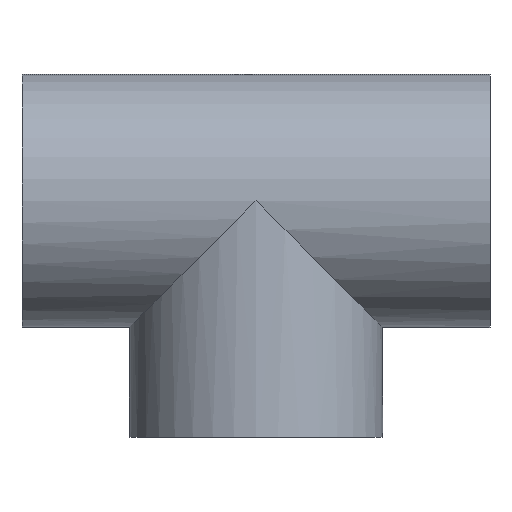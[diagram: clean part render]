
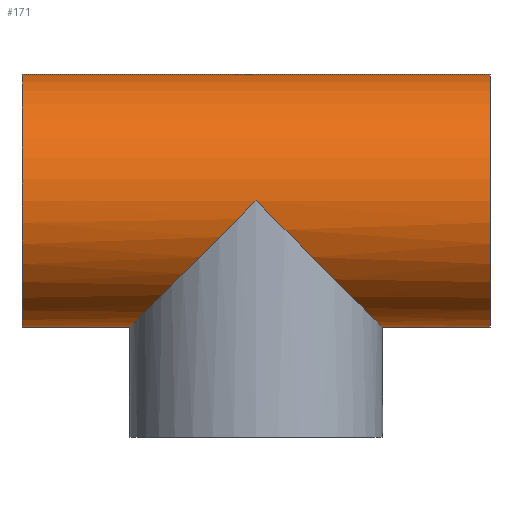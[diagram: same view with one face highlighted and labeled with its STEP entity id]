
A CAD part, top view. The second image highlights one B-rep face of the part: STEP entity #171.
In plain terms, the highlighted cylindrical face has radius 53 mm (diameter 106 mm), a full revolution.
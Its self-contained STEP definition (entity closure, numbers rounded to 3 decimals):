
#17=ELLIPSE('',#199,74.953,53.);
#18=ELLIPSE('',#200,74.953,53.);
#32=FACE_BOUND('',#68,.T.);
#33=FACE_BOUND('',#69,.T.);
#47=FACE_OUTER_BOUND('',#67,.T.);
#67=EDGE_LOOP('',(#140));
#68=EDGE_LOOP('',(#141,#142));
#69=EDGE_LOOP('',(#143));
#90=CIRCLE('',#198,53.);
#91=CIRCLE('',#201,53.);
#104=VERTEX_POINT('',#299);
#105=VERTEX_POINT('',#301);
#106=VERTEX_POINT('',#302);
#107=VERTEX_POINT('',#305);
#120=EDGE_CURVE('',#104,#104,#90,.T.);
#121=EDGE_CURVE('',#105,#106,#17,.T.);
#122=EDGE_CURVE('',#106,#105,#18,.T.);
#123=EDGE_CURVE('',#107,#107,#91,.T.);
#140=ORIENTED_EDGE('',*,*,#120,.F.);
#141=ORIENTED_EDGE('',*,*,#121,.T.);
#142=ORIENTED_EDGE('',*,*,#122,.T.);
#143=ORIENTED_EDGE('',*,*,#123,.F.);
#161=CYLINDRICAL_SURFACE('',#197,53.);
#171=ADVANCED_FACE('',(#47,#32,#33),#161,.T.);
#197=AXIS2_PLACEMENT_3D('',#298,#246,#247);
#198=AXIS2_PLACEMENT_3D('',#300,#248,#249);
#199=AXIS2_PLACEMENT_3D('',#303,#250,#251);
#200=AXIS2_PLACEMENT_3D('',#304,#252,#253);
#201=AXIS2_PLACEMENT_3D('',#306,#254,#255);
#246=DIRECTION('center_axis',(1.,0.,0.));
#247=DIRECTION('ref_axis',(0.,-1.,0.));
#248=DIRECTION('center_axis',(-1.,0.,0.));
#249=DIRECTION('ref_axis',(0.,-1.,0.));
#250=DIRECTION('center_axis',(-0.707,0.707,0.));
#251=DIRECTION('ref_axis',(-0.707,-0.707,0.));
#252=DIRECTION('center_axis',(0.707,0.707,0.));
#253=DIRECTION('ref_axis',(-0.707,0.707,0.));
#254=DIRECTION('center_axis',(1.,0.,0.));
#255=DIRECTION('ref_axis',(0.,-1.,0.));
#298=CARTESIAN_POINT('Origin',(0.,0.,0.));
#299=CARTESIAN_POINT('',(-98.,53.,0.));
#300=CARTESIAN_POINT('Origin',(-98.,0.,0.));
#301=CARTESIAN_POINT('',(0.,0.,-53.));
#302=CARTESIAN_POINT('',(0.,0.,53.));
#303=CARTESIAN_POINT('Origin',(0.,0.,0.));
#304=CARTESIAN_POINT('Origin',(0.,0.,0.));
#305=CARTESIAN_POINT('',(98.,53.,0.));
#306=CARTESIAN_POINT('Origin',(98.,0.,0.));
